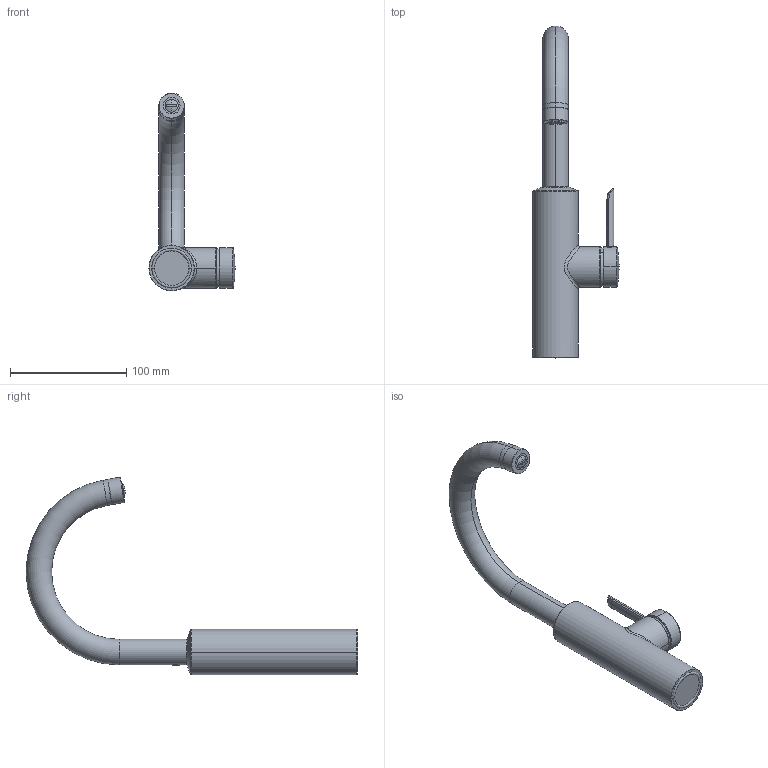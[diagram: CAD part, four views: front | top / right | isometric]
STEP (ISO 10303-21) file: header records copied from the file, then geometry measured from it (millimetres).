
FILE_DESCRIPTION((''),'2;1');
FILE_NAME('91620--25_SCRINKWRAP','2026-09-07T14:41:46',('clra1'),(''),'CREO PARAMETRIC BY PTC INC, 2022244','CREO PARAMETRIC BY PTC INC, 2022244','');
FILE_SCHEMA(('CONFIG_CONTROL_DESIGN'));
Length unit declared in the file: millimetre
Products named in the file (1): 91620--25_SCRINKWRAP
Bounding box: 74.01 x 285.3 x 169.85 mm (x, y, z)
Surface area: 48754.7 mm2 (no closed solid volume)
Topology: 0 solids, 20 shells, 88 faces, 225 edges, 153 vertices
Faces by surface type: bspline 29, cylinder 20, torus 18, plane 11, cone 4, sphere 4, revolution 2
Entity records: 5604 total; most frequent: CARTESIAN_POINT 3696, DIRECTION 365, ORIENTED_EDGE 360, EDGE_CURVE 223, AXIS2_PLACEMENT_3D 166, VERTEX_POINT 153, CIRCLE 109, EDGE_LOOP 88
